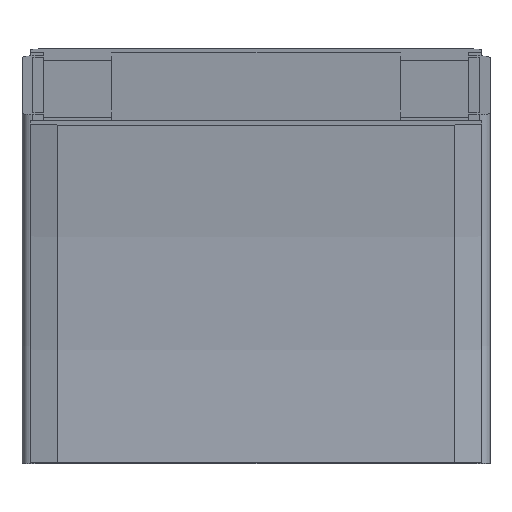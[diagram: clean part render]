
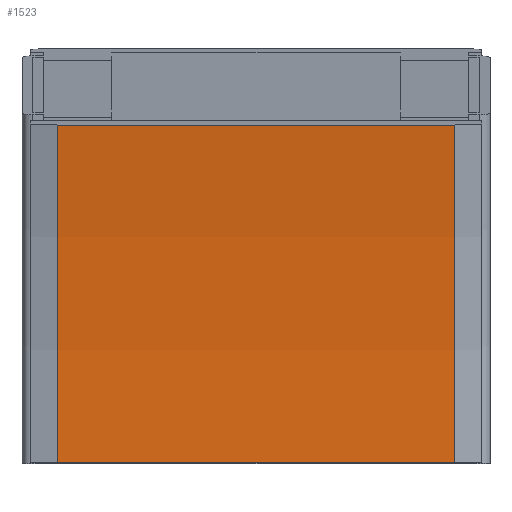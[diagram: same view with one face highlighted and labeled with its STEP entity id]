
A CAD part, top view. The second image highlights one B-rep face of the part: STEP entity #1523.
In plain terms, the highlighted cylindrical face has radius 357.5 mm (diameter 715 mm), a partial arc.
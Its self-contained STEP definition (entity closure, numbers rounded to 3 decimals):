
#79=CYLINDRICAL_SURFACE('',#1637,357.5);
#110=FACE_OUTER_BOUND('',#197,.T.);
#197=EDGE_LOOP('',(#1004,#1005,#1006,#1007));
#289=CIRCLE('',#1636,357.5);
#290=CIRCLE('',#1638,357.5);
#358=LINE('',#2198,#484);
#359=LINE('',#2200,#485);
#484=VECTOR('',#1790,10.);
#485=VECTOR('',#1791,10.);
#610=VERTEX_POINT('',#2191);
#611=VERTEX_POINT('',#2193);
#612=VERTEX_POINT('',#2197);
#613=VERTEX_POINT('',#2199);
#768=EDGE_CURVE('',#610,#611,#289,.T.);
#769=EDGE_CURVE('',#612,#610,#358,.T.);
#770=EDGE_CURVE('',#613,#611,#359,.T.);
#771=EDGE_CURVE('',#612,#613,#290,.T.);
#1004=ORIENTED_EDGE('',*,*,#769,.T.);
#1005=ORIENTED_EDGE('',*,*,#768,.T.);
#1006=ORIENTED_EDGE('',*,*,#770,.F.);
#1007=ORIENTED_EDGE('',*,*,#771,.F.);
#1523=ADVANCED_FACE('',(#110),#79,.F.);
#1636=AXIS2_PLACEMENT_3D('',#2195,#1786,#1787);
#1637=AXIS2_PLACEMENT_3D('',#2196,#1788,#1789);
#1638=AXIS2_PLACEMENT_3D('',#2201,#1792,#1793);
#1786=DIRECTION('center_axis',(1.,0.,0.));
#1787=DIRECTION('ref_axis',(0.,0.,-1.));
#1788=DIRECTION('center_axis',(1.,0.,0.));
#1789=DIRECTION('ref_axis',(0.,0.,-1.));
#1790=DIRECTION('',(1.,0.,0.));
#1791=DIRECTION('',(1.,0.,0.));
#1792=DIRECTION('center_axis',(1.,0.,0.));
#1793=DIRECTION('ref_axis',(0.,0.,-1.));
#2191=CARTESIAN_POINT('',(36.5,0.,42.5));
#2193=CARTESIAN_POINT('',(36.5,62.079,47.931));
#2195=CARTESIAN_POINT('Origin',(36.5,0.,
400.));
#2196=CARTESIAN_POINT('Origin',(0.,0.,400.));
#2197=CARTESIAN_POINT('',(-36.5,0.,42.5));
#2198=CARTESIAN_POINT('',(-36.5,0.,42.5));
#2199=CARTESIAN_POINT('',(-36.5,62.079,47.931));
#2200=CARTESIAN_POINT('',(-36.5,62.079,47.931));
#2201=CARTESIAN_POINT('Origin',(-36.5,0.,
400.));
